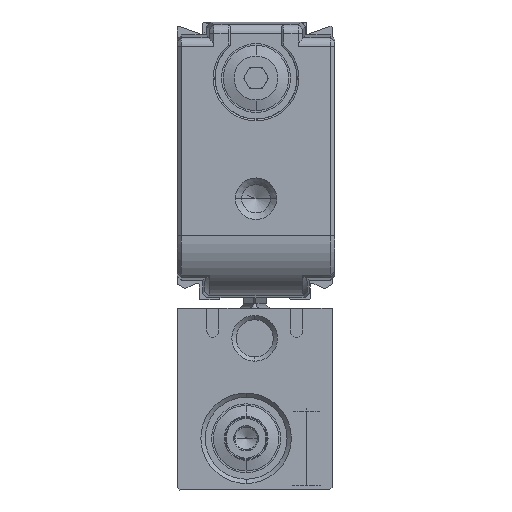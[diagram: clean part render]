
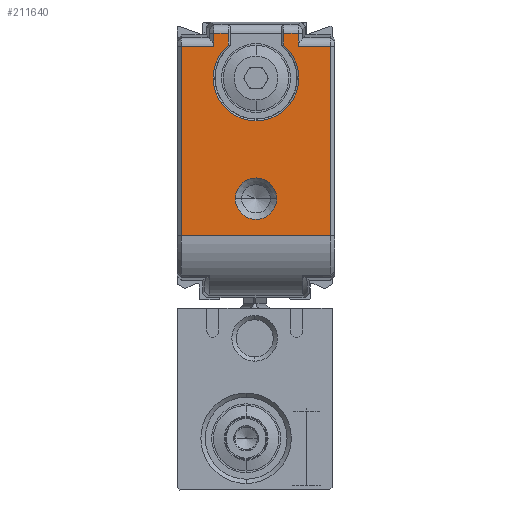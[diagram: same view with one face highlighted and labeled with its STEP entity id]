
A CAD part, left-side view. The second image highlights one B-rep face of the part: STEP entity #211640.
In plain terms, the highlighted planar face has unit normal (-1, 0, 0) as drawn and (0, 0, -1) by its records, which use the part's own axes.
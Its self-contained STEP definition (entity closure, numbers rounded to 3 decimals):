
#194300=CARTESIAN_POINT('',(31.077,22.24,-511.));
#194310=VERTEX_POINT('',#194300);
#194560=CARTESIAN_POINT('',(31.077,35.9,-511.));
#194570=DIRECTION('',(0.,-1.,0.));
#194580=VECTOR('',#194570,1.);
#194590=LINE('',#194560,#194580);
#194600=CARTESIAN_POINT('',(31.077,23.95,-511.));
#194610=VERTEX_POINT('',#194600);
#194620=EDGE_CURVE('',#194610,#194310,#194590,.T.);
#198440=CARTESIAN_POINT('',(7.619,35.8,-511.));
#198450=VERTEX_POINT('',#198440);
#198820=CARTESIAN_POINT('',(29.577,35.8,-511.));
#198830=VERTEX_POINT('',#198820);
#198950=CARTESIAN_POINT('',(18.598,35.8,-511.));
#198960=DIRECTION('',(1.,0.,0.));
#198970=VECTOR('',#198960,1.);
#198980=LINE('',#198950,#198970);
#198990=EDGE_CURVE('',#198450,#198830,#198980,.T.);
#206290=CARTESIAN_POINT('',(29.577,22.24,-511.));
#206300=VERTEX_POINT('',#206290);
#206330=CARTESIAN_POINT('',(29.577,35.9,-511.));
#206340=DIRECTION('',(0.,1.,0.));
#206350=VECTOR('',#206340,1.);
#206360=LINE('',#206330,#206350);
#206370=CARTESIAN_POINT('',(29.577,18.5,-511.));
#206380=VERTEX_POINT('',#206370);
#206390=EDGE_CURVE('',#206380,#206300,#206360,.T.);
#206740=CARTESIAN_POINT('',(29.077,22.24,-511.));
#206750=CARTESIAN_POINT('',(29.494,22.24,-511.));
#206760=CARTESIAN_POINT('',(29.91,22.24,-511.));
#206770=CARTESIAN_POINT('',(30.577,22.24,-511.));
#206780=CARTESIAN_POINT('',(30.827,22.24,-511.));
#206790=CARTESIAN_POINT('',(31.077,22.24,-511.));
#206800=B_SPLINE_CURVE_WITH_KNOTS('',3,(#206740,#206750,#206760,#206770,
#206780,#206790),.UNSPECIFIED.,.F.,.F.,(4,2,4),(38.213,
39.463,40.213),.UNSPECIFIED.);
#206810=EDGE_CURVE('',#206300,#194310,#206800,.T.);
#210470=CARTESIAN_POINT('',(7.619,18.5,
-511.));
#210480=VERTEX_POINT('',#210470);
#210510=CARTESIAN_POINT('',(7.619,35.9,-511.));
#210520=DIRECTION('',(0.,-1.,0.));
#210530=VECTOR('',#210520,1.);
#210540=LINE('',#210510,#210530);
#210550=EDGE_CURVE('',#198450,#210480,#210540,.T.);
#210850=CARTESIAN_POINT('',(16.65,27.15,-511.));
#210860=DIRECTION('',(0.,0.,1.));
#210870=DIRECTION('',(0.,1.,0.));
#210880=AXIS2_PLACEMENT_3D('',#210850,#210860,#210870);
#210890=PLANE('',#210880);
#210900=CARTESIAN_POINT('',(11.9,27.15,-511.));
#210910=DIRECTION('',(0.,0.,1.));
#210920=DIRECTION('',(0.,-1.,0.));
#210930=AXIS2_PLACEMENT_3D('',#210900,#210910,#210920);
#210940=CIRCLE('',#210930,2.4);
#210950=CARTESIAN_POINT('',(11.9,29.55,-511.));
#210960=VERTEX_POINT('',#210950);
#210970=CARTESIAN_POINT('',(11.9,24.75,-511.));
#210980=VERTEX_POINT('',#210970);
#210990=EDGE_CURVE('',#210960,#210980,#210940,.T.);
#211000=ORIENTED_EDGE('',*,*,#210990,.T.);
#211010=EDGE_CURVE('',#210980,#210960,#210940,.T.);
#211020=ORIENTED_EDGE('',*,*,#211010,.T.);
#211030=EDGE_LOOP('',(#211020,#211000));
#211040=FACE_BOUND('',#211030,.T.);
#211050=ORIENTED_EDGE('',*,*,#206390,.F.);
#211060=ORIENTED_EDGE('',*,*,#206810,.F.);
#211070=ORIENTED_EDGE('',*,*,#194620,.T.);
#211080=CARTESIAN_POINT('',(0.15,23.95,-511.));
#211090=DIRECTION('',(-1.,0.,0.));
#211100=VECTOR('',#211090,1.);
#211110=LINE('',#211080,#211100);
#211120=CARTESIAN_POINT('',(29.709,23.95,-511.));
#211130=VERTEX_POINT('',#211120);
#211140=EDGE_CURVE('',#194610,#211130,#211110,.T.);
#211150=ORIENTED_EDGE('',*,*,#211140,.F.);
#211160=CARTESIAN_POINT('',(25.9,27.15,-511.));
#211170=DIRECTION('',(0.,0.,-1.));
#211180=DIRECTION('',(0.,1.,0.));
#211190=AXIS2_PLACEMENT_3D('',#211160,#211170,#211180);
#211200=CIRCLE('',#211190,4.974);
#211210=CARTESIAN_POINT('',(29.709,30.35,-511.));
#211220=VERTEX_POINT('',#211210);
#211230=EDGE_CURVE('',#211130,#211220,#211200,.T.);
#211240=ORIENTED_EDGE('',*,*,#211230,.F.);
#211250=CARTESIAN_POINT('',(0.15,30.35,-511.));
#211260=DIRECTION('',(1.,0.,0.));
#211270=VECTOR('',#211260,1.);
#211280=LINE('',#211250,#211270);
#211290=CARTESIAN_POINT('',(31.077,30.35,-511.));
#211300=VERTEX_POINT('',#211290);
#211310=EDGE_CURVE('',#211220,#211300,#211280,.T.);
#211320=ORIENTED_EDGE('',*,*,#211310,.F.);
#211330=CARTESIAN_POINT('',(31.077,32.06,-511.));
#211340=VERTEX_POINT('',#211330);
#211350=EDGE_CURVE('',#211340,#211300,#194590,.T.);
#211360=ORIENTED_EDGE('',*,*,#211350,.T.);
#211370=CARTESIAN_POINT('',(29.077,32.06,-511.));
#211380=CARTESIAN_POINT('',(29.494,32.06,-511.));
#211390=CARTESIAN_POINT('',(29.91,32.06,-511.));
#211400=CARTESIAN_POINT('',(30.577,32.06,-511.));
#211410=CARTESIAN_POINT('',(30.827,32.06,-511.));
#211420=CARTESIAN_POINT('',(31.077,32.06,-511.));
#211430=B_SPLINE_CURVE_WITH_KNOTS('',3,(#211370,#211380,#211390,#211400,
#211410,#211420),.UNSPECIFIED.,.F.,.F.,(4,2,4),(38.213,
39.463,40.213),.UNSPECIFIED.);
#211440=CARTESIAN_POINT('',(29.577,32.06,-511.));
#211450=VERTEX_POINT('',#211440);
#211460=EDGE_CURVE('',#211450,#211340,#211430,.T.);
#211470=ORIENTED_EDGE('',*,*,#211460,.T.);
#211480=CARTESIAN_POINT('',(29.577,35.9,-511.));
#211490=DIRECTION('',(0.,1.,0.));
#211500=VECTOR('',#211490,1.);
#211510=LINE('',#211480,#211500);
#211520=EDGE_CURVE('',#211450,#198830,#211510,.T.);
#211530=ORIENTED_EDGE('',*,*,#211520,.F.);
#211540=ORIENTED_EDGE('',*,*,#198990,.T.);
#211550=ORIENTED_EDGE('',*,*,#210550,.F.);
#211560=CARTESIAN_POINT('',(18.598,18.5,-511.));
#211570=DIRECTION('',(1.,0.,0.));
#211580=VECTOR('',#211570,1.);
#211590=LINE('',#211560,#211580);
#211600=EDGE_CURVE('',#210480,#206380,#211590,.T.);
#211610=ORIENTED_EDGE('',*,*,#211600,.F.);
#211620=EDGE_LOOP('',(#211610,#211550,#211540,#211530,#211470,#211360,
#211320,#211240,#211150,#211070,#211060,#211050));
#211630=FACE_OUTER_BOUND('',#211620,.T.);
#211640=ADVANCED_FACE('',(#211040,#211630),#210890,.F.);
